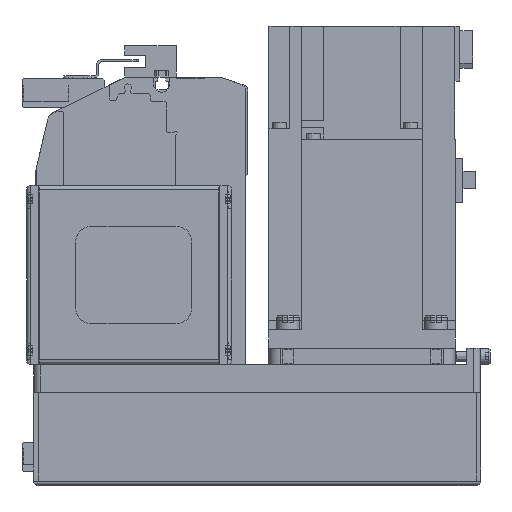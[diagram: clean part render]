
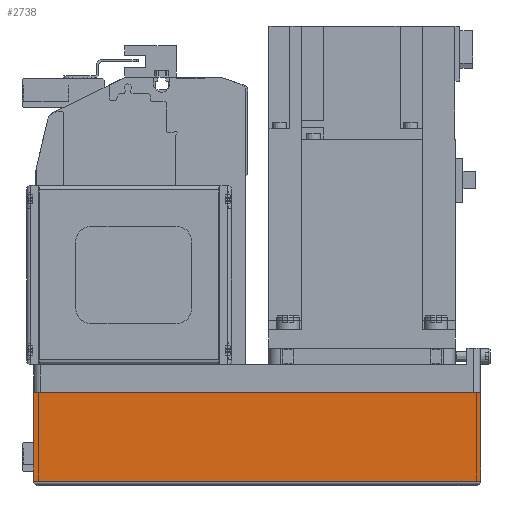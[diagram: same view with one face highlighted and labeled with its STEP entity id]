
A CAD part, left-side view. The second image highlights one B-rep face of the part: STEP entity #2738.
In plain terms, the highlighted planar face has unit normal (-1, 0, 0) as drawn and (0, 1, 0) by its records, which use the part's own axes.
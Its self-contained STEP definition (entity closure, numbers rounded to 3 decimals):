
#2738 = ADVANCED_FACE( '', ( #6009 ), #6010, .T. );
#6009 = FACE_OUTER_BOUND( '', #9751, .T. );
#6010 = PLANE( '', #9752 );
#9751 = EDGE_LOOP( '', ( #17363, #17364, #17365, #17366 ) );
#9752 = AXIS2_PLACEMENT_3D( '', #17367, #17368, #17369 );
#17363 = ORIENTED_EDGE( '', *, *, #23322, .F. );
#17364 = ORIENTED_EDGE( '', *, *, #23973, .F. );
#17365 = ORIENTED_EDGE( '', *, *, #21097, .T. );
#17366 = ORIENTED_EDGE( '', *, *, #22984, .T. );
#17367 = CARTESIAN_POINT( '', ( -192., 40., -50. ) );
#17368 = DIRECTION( '', ( 0., 1., 0. ) );
#17369 = DIRECTION( '', ( 0., 0., 1. ) );
#21097 = EDGE_CURVE( '', #25058, #25063, #25065, .T. );
#22984 = EDGE_CURVE( '', #25063, #24777, #28183, .T. );
#23322 = EDGE_CURVE( '', #28665, #24777, #28667, .T. );
#23973 = EDGE_CURVE( '', #25058, #28665, #29549, .T. );
#24777 = VERTEX_POINT( '', #30525 );
#25058 = VERTEX_POINT( '', #30895 );
#25063 = VERTEX_POINT( '', #30902 );
#25065 = LINE( '', #30905, #30906 );
#28183 = LINE( '', #35707, #35708 );
#28665 = VERTEX_POINT( '', #36426 );
#28667 = LINE( '', #36429, #36430 );
#29549 = LINE( '', #37931, #37932 );
#30525 = CARTESIAN_POINT( '', ( 0., 40., -12.1 ) );
#30895 = CARTESIAN_POINT( '', ( -192., 40., -50. ) );
#30902 = CARTESIAN_POINT( '', ( -192., 40., -12.1 ) );
#30905 = CARTESIAN_POINT( '', ( -192., 40., -50. ) );
#30906 = VECTOR( '', #39603, 1000. );
#35707 = CARTESIAN_POINT( '', ( -192., 40., -12.1 ) );
#35708 = VECTOR( '', #42035, 1000. );
#36426 = CARTESIAN_POINT( '', ( 0., 40., -50. ) );
#36429 = CARTESIAN_POINT( '', ( 0., 40., -50. ) );
#36430 = VECTOR( '', #42424, 1000. );
#37931 = CARTESIAN_POINT( '', ( -192., 40., -50. ) );
#37932 = VECTOR( '', #43117, 1000. );
#39603 = DIRECTION( '', ( 0., 0., 1. ) );
#42035 = DIRECTION( '', ( 1., 0., 0. ) );
#42424 = DIRECTION( '', ( 0., 0., 1. ) );
#43117 = DIRECTION( '', ( 1., 0., 0. ) );
